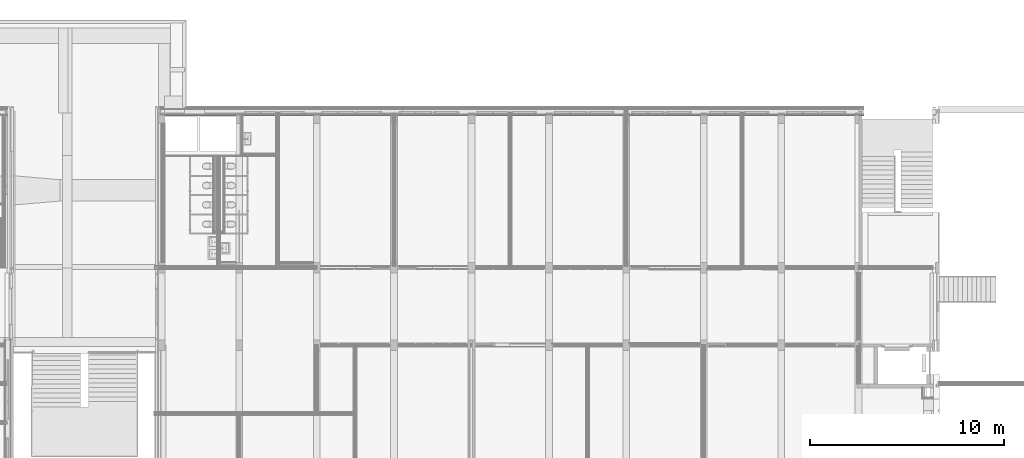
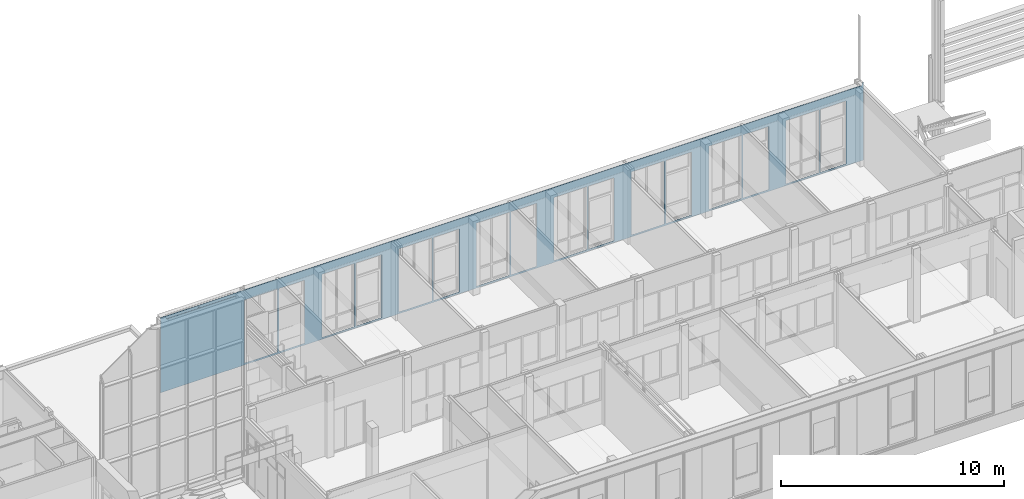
# One storey, part 57 of 94: 1 building element part, 16 openings, 1 element without a shape of its own.
"""IFC2X3 building model written with IfcOpenShell, lengths in millimetres."""

import ifcopenshell
import ifcopenshell.guid

model = None  # the IFC model being written
_history = None  # IfcOwnerHistory: only IFC2X3 demands one
_inside = {}  # id of a spatial element -> (the spatial element, [elements in it])
_under = {}  # id of a project, library or spatial element -> (it, [spatial elements below it])
_declared = {}  # id of a project -> (the project, [libraries it declares])
_typed = {}  # id of a type object -> (the type object, [elements of that type])
_made_of = {}  # id of a material, layer set ... -> (it, [elements and type objects made of it])


def new_model(schema):
    """Start an empty IFC model of exactly this schema.

    Asked for "IFC4X3", IfcOpenShell would pick the latest addendum, in which some entities
    have other attributes; the version numbers below select the first issue.
    IFC2X3 requires an IfcOwnerHistory on every rooted entity: one is made here for all.
    """
    global model, _history
    if schema == "IFC4X3":
        model = ifcopenshell.file(schema_version=(4, 3, 0, 0))
    else:
        model = ifcopenshell.file(schema=schema)
    _inside.clear()
    _under.clear()
    _declared.clear()
    _typed.clear()
    _made_of.clear()
    _history = None
    if model.schema == "IFC2X3":
        org = make("IfcOrganization", Name="unknown")
        user = make(
            "IfcPersonAndOrganization",
            ThePerson=make("IfcPerson", FamilyName="unknown"),
            TheOrganization=org,
        )
        app = make(
            "IfcApplication",
            ApplicationDeveloper=org,
            Version="unknown",
            ApplicationFullName="unknown",
            ApplicationIdentifier="unknown",
        )
        _history = make(
            "IfcOwnerHistory",
            OwningUser=user,
            OwningApplication=app,
            ChangeAction="ADDED",
            CreationDate=0,
        )
    return model


def make(cls, **values):
    """One entity of the class cls with the attributes given. An attribute that is None is left unset."""
    return model.create_entity(
        cls, **{name: value for name, value in values.items() if value is not None}
    )


def entity(cls, *values):
    """Any entity or typed value of the class cls, its attributes in the order of the schema. None: left unset."""
    e = model.create_entity(cls)
    for i, value in enumerate(values):
        if value is not None:
            e[i] = value
    return e


def rooted(cls, **values):
    """An entity with a GlobalId (a new one), such as an element, a storey or a relation."""
    return make(cls, GlobalId=ifcopenshell.guid.new(), OwnerHistory=_history, **values)


def si_unit(unit_type, name, prefix=None):
    """IfcSIUnit, for example si_unit("LENGTHUNIT", "METRE", prefix="MILLI")."""
    return make("IfcSIUnit", UnitType=unit_type, Prefix=prefix, Name=name)


def converted_unit(unit_type, name, factor, base, dimensions=None, offset=None):
    """IfcConversionBasedUnit, such as the inch: factor (a typed value) times the base unit."""
    return make(
        "IfcConversionBasedUnit"
        if offset is None
        else "IfcConversionBasedUnitWithOffset",
        ConversionOffset=offset,
        Dimensions=None
        if dimensions is None
        else entity("IfcDimensionalExponents", *dimensions),
        UnitType=unit_type,
        Name=name,
        ConversionFactor=make(
            "IfcMeasureWithUnit", ValueComponent=factor, UnitComponent=base
        ),
    )


def derived_unit(unit_type, elements):
    """IfcDerivedUnit: a product of units, each with its exponent."""
    return make(
        "IfcDerivedUnit",
        Elements=[
            make("IfcDerivedUnitElement", Unit=unit, Exponent=power)
            for unit, power in elements
        ],
        UnitType=unit_type,
    )


def money_unit(currency):
    """IfcMonetaryUnit."""
    return make("IfcMonetaryUnit", Currency=currency)


def assignment(units):
    """IfcUnitAssignment: the units of a project."""
    return None if units is None else make("IfcUnitAssignment", Units=units)


def point(xyz):
    """IfcCartesianPoint."""
    return None if xyz is None else make("IfcCartesianPoint", Coordinates=xyz)


def direction(xyz):
    """IfcDirection."""
    return None if xyz is None else make("IfcDirection", DirectionRatios=xyz)


def frame(location, z_axis=None, x_axis=None):
    """IfcAxis2Placement3D, a coordinate frame: its origin and axes. An axis left out is left unset."""
    return make(
        "IfcAxis2Placement3D",
        Location=point(location),
        Axis=direction(z_axis),
        RefDirection=direction(x_axis),
    )


def origin_with_axes():
    """The frame at (0, 0, 0) with the z axis (0, 0, 1) and the x axis (1, 0, 0) written out."""
    return frame((0.0, 0.0, 0.0), z_axis=(0.0, 0.0, 1.0), x_axis=(1.0, 0.0, 0.0))


def place(relative_to, where):
    """IfcLocalPlacement: puts the frame where relative to a parent placement (None: the world)."""
    return make(
        "IfcLocalPlacement", PlacementRelTo=relative_to, RelativePlacement=where
    )


def context(
    kind, dimensions, precision=None, world=None, true_north=None, identifier=None
):
    """IfcGeometricRepresentationContext, for example the 3D "Model" context."""
    return make(
        "IfcGeometricRepresentationContext",
        ContextIdentifier=identifier,
        ContextType=kind,
        CoordinateSpaceDimension=dimensions,
        Precision=precision,
        WorldCoordinateSystem=world,
        TrueNorth=true_north,
    )


def subcontext(parent, identifier, kind, view, scale=None):
    """IfcGeometricRepresentationSubContext, for example "Body" below "Model"."""
    return make(
        "IfcGeometricRepresentationSubContext",
        ContextIdentifier=identifier,
        ContextType=kind,
        ParentContext=parent,
        TargetScale=scale,
        TargetView=view,
    )


def project(units=None, contexts=None):
    """IfcProject with its units and contexts."""
    return rooted(
        "IfcProject",
        Name="project",
        RepresentationContexts=contexts,
        UnitsInContext=assignment(units),
    )


def spatial(cls, under=None, at=None, **own):
    """A site, building, storey or space (cls), placed at a placement, below another one or the project."""
    s = rooted(cls, ObjectPlacement=at, **own)
    if under is not None:
        _under.setdefault(under.id(), (under, []))[1].append(s)
    return s


def faces_of(points, faces, orient=None, outer=None):
    """IfcFace entities. A face is a list of loops; a loop is a list of indices into points, from 0.

    orient and outer hold one flag for each loop. By default every Orientation is true, the
    first loop of a face is its IfcFaceOuterBound and the others are IfcFaceBound.
    """
    made = []
    for i, loops in enumerate(faces):
        bounds = []
        for j, loop in enumerate(loops):
            is_outer = j == 0 if outer is None else outer[i][j]
            bounds.append(
                make(
                    "IfcFaceOuterBound" if is_outer else "IfcFaceBound",
                    Bound=make("IfcPolyLoop", Polygon=[points[k] for k in loop]),
                    Orientation=True if orient is None else orient[i][j],
                )
            )
        made.append(make("IfcFace", Bounds=bounds))
    return made


def faceted_brep(points, faces, orient=None, outer=None, voids=None):
    """IfcFacetedBrep: a solid bounded by flat faces; with voids (closed shells), ...WithVoids."""
    shared = [point(p) for p in points]
    hull = make("IfcClosedShell", CfsFaces=faces_of(shared, faces, orient, outer))
    if voids is None:
        return make("IfcFacetedBrep", Outer=hull)
    return make(
        "IfcFacetedBrepWithVoids",
        Outer=hull,
        Voids=[
            make(cls, CfsFaces=faces_of(shared, fs, o, b)) for cls, fs, o, b in voids
        ],
    )


def shape(context_of_items, identifier, shape_type, items):
    """IfcShapeRepresentation: the items that make up one representation, for example the "Body"."""
    return make(
        "IfcShapeRepresentation",
        ContextOfItems=context_of_items,
        RepresentationIdentifier=identifier,
        RepresentationType=shape_type,
        Items=items,
    )


def material(Name=None, Category=None):
    """IfcMaterial."""
    return make("IfcMaterial", Name=Name, Category=Category)


def made_of(thing, what):
    """Note that an element or type object is made of a material, layer set ...; save() writes the relation."""
    if what is not None:
        _made_of.setdefault(what.id(), (what, []))[1].append(thing)
    return thing


def type_object(cls, material=None, **own):
    """A type object (cls), such as IfcWallType, which elements share."""
    return made_of(rooted(cls, **own), material)


def element(
    cls,
    number,
    at=None,
    inside=None,
    cuts=None,
    type_object=None,
    material=None,
    context=None,
    identifier="Body",
    shape_type=None,
    held_by="IfcProductDefinitionShape",
    body=None,
    shapes=None,
    **own,
):
    """One element of the class cls, such as IfcWall. Its Tag is "e" and its number.

    at: its placement. inside: the storey or other place that contains it. cuts: it is an
    opening in that element (IfcRelVoidsElement). A single representation is given by context,
    identifier, shape_type and body (its items); several are given by shapes. held_by: the class
    of the entity that holds the representations. save() writes the other relations.
    """
    e = rooted(cls, Tag="e%d" % number, ObjectPlacement=at, **own)
    if body is not None:
        shapes = [shape(context, identifier, shape_type, body)]
    if shapes is not None:
        e.Representation = make(held_by, Representations=shapes)
    if inside is not None:
        _inside.setdefault(inside.id(), (inside, []))[1].append(e)
    if cuts is not None:
        rooted(
            "IfcRelVoidsElement", RelatingBuildingElement=cuts, RelatedOpeningElement=e
        )
    if type_object is not None:
        _typed.setdefault(type_object.id(), (type_object, []))[1].append(e)
    return made_of(e, material)


def aggregate(whole, parts):
    """IfcRelAggregates: a whole, such as a stair, and the parts it consists of."""
    return rooted("IfcRelAggregates", RelatingObject=whole, RelatedObjects=parts)


def save(model, path):
    """Write the relations noted so far, then the file.

    IfcRelAggregates (storeys below a building ...), IfcRelContainedInSpatialStructure (elements
    in a storey), IfcRelDefinesByType, IfcRelAssociatesMaterial and IfcRelDeclares: one each for
    every whole, place, type object, material and project.
    """
    for whole, parts in _under.values():
        aggregate(whole, parts)
    for where, things in _inside.values():
        rooted(
            "IfcRelContainedInSpatialStructure",
            RelatedElements=things,
            RelatingStructure=where,
        )
    for kind, things in _typed.values():
        rooted("IfcRelDefinesByType", RelatedObjects=things, RelatingType=kind)
    for what, things in _made_of.values():
        rooted("IfcRelAssociatesMaterial", RelatedObjects=things, RelatingMaterial=what)
    for by, libraries in _declared.values():
        rooted("IfcRelDeclares", RelatingContext=by, RelatedDefinitions=libraries)
    model.write(path)


model = new_model("IFC2X3")

# Units and contexts
model_context = context("Model", 3, precision=0.01, world=origin_with_axes(), true_north=direction((0.0, 1.0)))
body_context = subcontext(model_context, "Body", "Model", "MODEL_VIEW")
ifc_project = project(units=[si_unit("LENGTHUNIT", "METRE", prefix="MILLI"), si_unit("AREAUNIT", "SQUARE_METRE"), si_unit("VOLUMEUNIT", "CUBIC_METRE"), converted_unit("PLANEANGLEUNIT", "DEGREE", entity("IfcPlaneAngleMeasure", 0.0174532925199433), si_unit("PLANEANGLEUNIT", "RADIAN"), dimensions=[0, 0, 0, 0, 0, 0, 0]), money_unit("EUR"), converted_unit("TIMEUNIT", "Year", entity("IfcTimeMeasure", 31557600.0), si_unit("TIMEUNIT", "SECOND"), dimensions=[0, 0, 1, 0, 0, 0, 0]), si_unit("MASSUNIT", "GRAM", prefix="KILO"), si_unit("THERMODYNAMICTEMPERATUREUNIT", "DEGREE_CELSIUS"), si_unit("LUMINOUSINTENSITYUNIT", "LUMEN"), si_unit("ENERGYUNIT", "JOULE", prefix="MEGA"), derived_unit("THERMALCONDUCTANCEUNIT", [(si_unit("POWERUNIT", "WATT"), 1), (si_unit("LENGTHUNIT", "METRE"), -1), (si_unit("THERMODYNAMICTEMPERATUREUNIT", "KELVIN"), -1)]), derived_unit("SPECIFICHEATCAPACITYUNIT", [(si_unit("ENERGYUNIT", "JOULE"), 1), (si_unit("MASSUNIT", "GRAM", prefix="KILO"), -1), (si_unit("THERMODYNAMICTEMPERATUREUNIT", "KELVIN"), -1)]), derived_unit("MASSDENSITYUNIT", [(si_unit("MASSUNIT", "GRAM", prefix="KILO"), 1), (si_unit("VOLUMEUNIT", "CUBIC_METRE"), -1)])], contexts=[model_context])

# Site, building, storey
site_placement = place(None, origin_with_axes())
site = spatial("IfcSite", under=ifc_project, at=site_placement, Name="<site naam>", CompositionType="ELEMENT")
building_placement = place(site_placement, origin_with_axes())
building = spatial("IfcBuilding", under=site, at=building_placement, Name="<Naam gebouw>", CompositionType="ELEMENT")
storey_placement = place(building_placement, frame((0.0, 0.0, 4250.0), z_axis=(0.0, 0.0, 1.0), x_axis=(1.0, 0.0, 0.0)))
storey = spatial("IfcBuildingStorey", under=building, at=storey_placement, Name="01 1e verdieping", CompositionType="ELEMENT", Elevation=4250.0)

# Wall, openings, building element part
wall_type = type_object("IfcWallType", Name="HSB_285 gevelbeplating 420", PredefinedType="NOTDEFINED")
wall_placement = place(storey_placement, frame((48251.99999966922, 20298.00000000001, 0.0), z_axis=(0.0, 0.0, 1.0), x_axis=(-1.0, 0.0, 0.0)))
wall = element("IfcWall", 1, at=wall_placement, inside=storey, type_object=wall_type, Name="21_Binnenwand_HSB_285")
opening_1_placement = place(wall_placement, frame((3140.999999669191, 0.0, 99.99999999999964), z_axis=(0.0, 0.0, 1.0), x_axis=(1.0, 0.0, 0.0)))
element("IfcOpeningElement", 2, at=opening_1_placement, cuts=wall, Name="21_BU-A-12a sp_305", context=body_context, shape_type="Brep", body=[
    faceted_brep([(850.9999999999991, 213.000000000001, 3450.0), (-850.9999999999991, 213.000000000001, 3450.0), (-850.9999999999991, -1.000000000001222, 3450.0), (850.9999999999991, -1.000000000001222, 3450.0), (850.9999999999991, 421.000000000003, 3450.0), (-850.9999999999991, 421.000000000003, 3450.0), (-850.9999999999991, 213.000000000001, 0.0), (-850.9999999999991, -1.000000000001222, 0.0), (850.9999999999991, -1.000000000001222, 0.0), (850.9999999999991, 213.000000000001, 0.0), (850.9999999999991, 421.000000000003, 0.0), (-850.9999999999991, 421.000000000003, 0.0)], [[[0, 1, 2, 3]], [[1, 0, 4, 5]], [[1, 6, 7, 2]], [[2, 7, 8, 3]], [[9, 0, 3, 8]], [[0, 9, 10, 4]], [[4, 10, 11, 5]], [[6, 1, 5, 11]], [[6, 9, 8, 7]], [[9, 6, 11, 10]]]),
])
opening_2_placement = place(wall_placement, frame((1551.00001094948, 0.0, 99.99999999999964), z_axis=(0.0, 0.0, 1.0), x_axis=(1.0, 0.0, 0.0)))
element("IfcOpeningElement", 3, at=opening_2_placement, cuts=wall, Name="21_BU-A-12b sp_305", context=body_context, shape_type="Brep", body=[
    faceted_brep([(662.9999999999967, 213.000000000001, 3450.0), (-662.9999999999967, 213.000000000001, 3450.0), (-662.9999999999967, -1.000000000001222, 3450.0), (662.9999999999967, -1.000000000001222, 3450.0), (662.9999999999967, 421.000000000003, 3450.0), (-662.9999999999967, 421.000000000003, 3450.0), (-662.9999999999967, 213.000000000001, 0.0), (-662.9999999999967, -1.000000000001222, 0.0), (662.9999999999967, -1.000000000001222, 0.0), (662.9999999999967, 213.000000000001, 0.0), (662.9999999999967, 421.000000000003, 0.0), (-662.9999999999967, 421.000000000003, 0.0)], [[[0, 1, 2, 3]], [[1, 0, 4, 5]], [[1, 6, 7, 2]], [[2, 7, 8, 3]], [[9, 0, 3, 8]], [[0, 9, 10, 4]], [[4, 10, 11, 5]], [[6, 1, 5, 11]], [[6, 9, 8, 7]], [[9, 6, 11, 10]]]),
])
opening_3_placement = place(wall_placement, frame((7140.999999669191, 0.0, 99.99999999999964), z_axis=(0.0, 0.0, 1.0), x_axis=(1.0, 0.0, 0.0)))
element("IfcOpeningElement", 4, at=opening_3_placement, cuts=wall, Name="21_BU-A-12a sp_305", context=body_context, shape_type="Brep", body=[
    faceted_brep([(850.9999999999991, 213.000000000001, 3450.0), (-850.9999999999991, 213.000000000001, 3450.0), (-850.9999999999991, -1.000000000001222, 3450.0), (850.9999999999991, -1.000000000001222, 3450.0), (850.9999999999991, 421.000000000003, 3450.0), (-850.9999999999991, 421.000000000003, 3450.0), (-850.9999999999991, 213.000000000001, 0.0), (-850.9999999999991, -1.000000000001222, 0.0), (850.9999999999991, -1.000000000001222, 0.0), (850.9999999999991, 213.000000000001, 0.0), (850.9999999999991, 421.000000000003, 0.0), (-850.9999999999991, 421.000000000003, 0.0)], [[[0, 1, 2, 3]], [[1, 0, 4, 5]], [[1, 6, 7, 2]], [[2, 7, 8, 3]], [[9, 0, 3, 8]], [[0, 9, 10, 4]], [[4, 10, 11, 5]], [[6, 1, 5, 11]], [[6, 9, 8, 7]], [[9, 6, 11, 10]]]),
])
opening_4_placement = place(wall_placement, frame((9550.999999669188, 0.0, 99.99999999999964), z_axis=(0.0, 0.0, 1.0), x_axis=(1.0, 0.0, 0.0)))
element("IfcOpeningElement", 5, at=opening_4_placement, cuts=wall, Name="21_BU-A-12b sp_305", context=body_context, shape_type="Brep", body=[
    faceted_brep([(662.9999999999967, 213.000000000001, 3450.0), (-662.9999999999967, 213.000000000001, 3450.0), (-662.9999999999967, -1.000000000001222, 3450.0), (662.9999999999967, -1.000000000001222, 3450.0), (662.9999999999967, 421.000000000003, 3450.0), (-662.9999999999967, 421.000000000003, 3450.0), (-662.9999999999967, 213.000000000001, 0.0), (-662.9999999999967, -1.000000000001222, 0.0), (662.9999999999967, -1.000000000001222, 0.0), (662.9999999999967, 213.000000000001, 0.0), (662.9999999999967, 421.000000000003, 0.0), (-662.9999999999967, 421.000000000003, 0.0)], [[[0, 1, 2, 3]], [[1, 0, 4, 5]], [[1, 6, 7, 2]], [[2, 7, 8, 3]], [[9, 0, 3, 8]], [[0, 9, 10, 4]], [[4, 10, 11, 5]], [[6, 1, 5, 11]], [[6, 9, 8, 7]], [[9, 6, 11, 10]]]),
])
opening_5_placement = place(wall_placement, frame((11140.99999966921, 0.0, 99.99999999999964), z_axis=(0.0, 0.0, 1.0), x_axis=(1.0, 0.0, 0.0)))
element("IfcOpeningElement", 6, at=opening_5_placement, cuts=wall, Name="21_BU-A-12a sp_305", context=body_context, shape_type="Brep", body=[
    faceted_brep([(850.9999999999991, 213.000000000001, 3450.0), (-850.9999999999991, 213.000000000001, 3450.0), (-850.9999999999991, -1.000000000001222, 3450.0), (850.9999999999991, -1.000000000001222, 3450.0), (850.9999999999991, 421.000000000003, 3450.0), (-850.9999999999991, 421.000000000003, 3450.0), (-850.9999999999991, 213.000000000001, 0.0), (-850.9999999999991, -1.000000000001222, 0.0), (850.9999999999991, -1.000000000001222, 0.0), (850.9999999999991, 213.000000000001, 0.0), (850.9999999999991, 421.000000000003, 0.0), (-850.9999999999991, 421.000000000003, 0.0)], [[[0, 1, 2, 3]], [[1, 0, 4, 5]], [[1, 6, 7, 2]], [[2, 7, 8, 3]], [[9, 0, 3, 8]], [[0, 9, 10, 4]], [[4, 10, 11, 5]], [[6, 1, 5, 11]], [[6, 9, 8, 7]], [[9, 6, 11, 10]]]),
])
opening_6_placement = place(wall_placement, frame((15140.99998838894, 0.0, 99.99999999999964), z_axis=(0.0, 0.0, 1.0), x_axis=(1.0, 0.0, 0.0)))
element("IfcOpeningElement", 7, at=opening_6_placement, cuts=wall, Name="21_BU-A-12a sp_305", context=body_context, shape_type="Brep", body=[
    faceted_brep([(850.9999999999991, 212.9999999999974, 3450.0), (-850.9999999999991, 212.9999999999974, 3450.0), (-850.9999999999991, -1.000000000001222, 3450.0), (850.9999999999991, -1.000000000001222, 3450.0), (850.9999999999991, 421.000000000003, 3450.0), (-850.9999999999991, 421.000000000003, 3450.0), (-850.9999999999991, 212.9999999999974, 0.0), (-850.9999999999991, -1.000000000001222, 0.0), (850.9999999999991, -1.000000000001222, 0.0), (850.9999999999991, 212.9999999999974, 0.0), (850.9999999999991, 421.000000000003, 0.0), (-850.9999999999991, 421.000000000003, 0.0)], [[[0, 1, 2, 3]], [[1, 0, 4, 5]], [[1, 6, 7, 2]], [[2, 7, 8, 3]], [[9, 0, 3, 8]], [[0, 9, 10, 4]], [[4, 10, 11, 5]], [[6, 1, 5, 11]], [[6, 9, 8, 7]], [[9, 6, 11, 10]]]),
])
opening_7_placement = place(wall_placement, frame((13550.99999966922, 0.0, 99.99999999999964), z_axis=(0.0, 0.0, 1.0), x_axis=(1.0, 0.0, 0.0)))
element("IfcOpeningElement", 8, at=opening_7_placement, cuts=wall, Name="21_BU-A-12b sp_305", context=body_context, shape_type="Brep", body=[
    faceted_brep([(662.9999999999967, 213.000000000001, 3450.0), (-662.9999999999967, 213.000000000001, 3450.0), (-662.9999999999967, -1.000000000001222, 3450.0), (662.9999999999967, -1.000000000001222, 3450.0), (662.9999999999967, 421.000000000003, 3450.0), (-662.9999999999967, 421.000000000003, 3450.0), (-662.9999999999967, 213.000000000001, 0.0), (-662.9999999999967, -1.000000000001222, 0.0), (662.9999999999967, -1.000000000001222, 0.0), (662.9999999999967, 213.000000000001, 0.0), (662.9999999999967, 421.000000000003, 0.0), (-662.9999999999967, 421.000000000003, 0.0)], [[[0, 1, 2, 3]], [[1, 0, 4, 5]], [[1, 6, 7, 2]], [[2, 7, 8, 3]], [[9, 0, 3, 8]], [[0, 9, 10, 4]], [[4, 10, 11, 5]], [[6, 1, 5, 11]], [[6, 9, 8, 7]], [[9, 6, 11, 10]]]),
])
opening_8_placement = place(wall_placement, frame((19140.98053610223, 0.0, 99.99999999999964), z_axis=(0.0, 0.0, 1.0), x_axis=(1.0, 0.0, 0.0)))
element("IfcOpeningElement", 9, at=opening_8_placement, cuts=wall, Name="21_BU-A-12a sp_305", context=body_context, shape_type="Brep", body=[
    faceted_brep([(850.9999999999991, 212.9999999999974, 3450.0), (-850.9999999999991, 212.9999999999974, 3450.0), (-850.9999999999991, -1.000000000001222, 3450.0), (850.9999999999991, -1.000000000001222, 3450.0), (850.9999999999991, 421.000000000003, 3450.0), (-850.9999999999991, 421.000000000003, 3450.0), (-850.9999999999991, 212.9999999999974, 0.0), (-850.9999999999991, -1.000000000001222, 0.0), (850.9999999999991, -1.000000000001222, 0.0), (850.9999999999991, 212.9999999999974, 0.0), (850.9999999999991, 421.000000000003, 0.0), (-850.9999999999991, 421.000000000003, 0.0)], [[[0, 1, 2, 3]], [[1, 0, 4, 5]], [[1, 6, 7, 2]], [[2, 7, 8, 3]], [[9, 0, 3, 8]], [[0, 9, 10, 4]], [[4, 10, 11, 5]], [[6, 1, 5, 11]], [[6, 9, 8, 7]], [[9, 6, 11, 10]]]),
])
opening_9_placement = place(wall_placement, frame((17550.99999966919, 0.0, 99.99999999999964), z_axis=(0.0, 0.0, 1.0), x_axis=(1.0, 0.0, 0.0)))
element("IfcOpeningElement", 10, at=opening_9_placement, cuts=wall, Name="21_BU-A-12b sp_305", context=body_context, shape_type="Brep", body=[
    faceted_brep([(663.0000000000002, 212.9999999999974, 3450.0), (-663.0000000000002, 212.9999999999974, 3450.0), (-663.0000000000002, -1.000000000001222, 3450.0), (663.0000000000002, -1.000000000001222, 3450.0), (663.0000000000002, 421.000000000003, 3450.0), (-663.0000000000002, 421.000000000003, 3450.0), (-663.0000000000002, 212.9999999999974, 0.0), (-663.0000000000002, -1.000000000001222, 0.0), (663.0000000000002, -1.000000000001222, 0.0), (663.0000000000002, 212.9999999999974, 0.0), (663.0000000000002, 421.000000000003, 0.0), (-663.0000000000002, 421.000000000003, 0.0)], [[[0, 1, 2, 3]], [[1, 0, 4, 5]], [[1, 6, 7, 2]], [[2, 7, 8, 3]], [[9, 0, 3, 8]], [[0, 9, 10, 4]], [[4, 10, 11, 5]], [[6, 1, 5, 11]], [[6, 9, 8, 7]], [[9, 6, 11, 10]]]),
])
opening_10_placement = place(wall_placement, frame((5550.999999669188, 0.0, 99.99999999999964), z_axis=(0.0, 0.0, 1.0), x_axis=(1.0, 0.0, 0.0)))
element("IfcOpeningElement", 11, at=opening_10_placement, cuts=wall, Name="21_BU-A-12b sp_305", context=body_context, shape_type="Brep", body=[
    faceted_brep([(662.9999999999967, 213.000000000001, 3450.0), (-662.9999999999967, 213.000000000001, 3450.0), (-662.9999999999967, -1.000000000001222, 3450.0), (662.9999999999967, -1.000000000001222, 3450.0), (662.9999999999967, 421.000000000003, 3450.0), (-662.9999999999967, 421.000000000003, 3450.0), (-662.9999999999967, 213.000000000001, 0.0), (-662.9999999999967, -1.000000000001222, 0.0), (662.9999999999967, -1.000000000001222, 0.0), (662.9999999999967, 213.000000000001, 0.0), (662.9999999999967, 421.000000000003, 0.0), (-662.9999999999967, 421.000000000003, 0.0)], [[[0, 1, 2, 3]], [[1, 0, 4, 5]], [[1, 6, 7, 2]], [[2, 7, 8, 3]], [[9, 0, 3, 8]], [[0, 9, 10, 4]], [[4, 10, 11, 5]], [[6, 1, 5, 11]], [[6, 9, 8, 7]], [[9, 6, 11, 10]]]),
])
opening_11_placement = place(wall_placement, frame((23141.0125073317, 0.0, 99.99999999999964), z_axis=(0.0, 0.0, 1.0), x_axis=(1.0, 0.0, 0.0)))
element("IfcOpeningElement", 12, at=opening_11_placement, cuts=wall, Name="21_BU-A-12a sp_305", context=body_context, shape_type="Brep", body=[
    faceted_brep([(850.9999999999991, 212.9999999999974, 3450.0), (-850.9999999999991, 212.9999999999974, 3450.0), (-850.9999999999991, -1.000000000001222, 3450.0), (850.9999999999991, -1.000000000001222, 3450.0), (850.9999999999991, 421.000000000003, 3450.0), (-850.9999999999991, 421.000000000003, 3450.0), (-850.9999999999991, 212.9999999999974, 0.0), (-850.9999999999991, -1.000000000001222, 0.0), (850.9999999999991, -1.000000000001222, 0.0), (850.9999999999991, 212.9999999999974, 0.0), (850.9999999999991, 421.000000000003, 0.0), (-850.9999999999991, 421.000000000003, 0.0)], [[[0, 1, 2, 3]], [[1, 0, 4, 5]], [[1, 6, 7, 2]], [[2, 7, 8, 3]], [[9, 0, 3, 8]], [[0, 9, 10, 4]], [[4, 10, 11, 5]], [[6, 1, 5, 11]], [[6, 9, 8, 7]], [[9, 6, 11, 10]]]),
])
opening_12_placement = place(wall_placement, frame((21550.98053610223, 0.0, 99.99999999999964), z_axis=(0.0, 0.0, 1.0), x_axis=(1.0, 0.0, 0.0)))
element("IfcOpeningElement", 13, at=opening_12_placement, cuts=wall, Name="21_BU-A-12b sp_305", context=body_context, shape_type="Brep", body=[
    faceted_brep([(663.0000000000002, 212.9999999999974, 3450.0), (-663.0000000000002, 212.9999999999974, 3450.0), (-663.0000000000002, -1.000000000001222, 3450.0), (663.0000000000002, -1.000000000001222, 3450.0), (663.0000000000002, 421.000000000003, 3450.0), (-663.0000000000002, 421.000000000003, 3450.0), (-663.0000000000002, 212.9999999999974, 0.0), (-663.0000000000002, -1.000000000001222, 0.0), (663.0000000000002, -1.000000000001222, 0.0), (663.0000000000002, 212.9999999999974, 0.0), (663.0000000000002, 421.000000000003, 0.0), (-663.0000000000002, 421.000000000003, 0.0)], [[[0, 1, 2, 3]], [[1, 0, 4, 5]], [[1, 6, 7, 2]], [[2, 7, 8, 3]], [[9, 0, 3, 8]], [[0, 9, 10, 4]], [[4, 10, 11, 5]], [[6, 1, 5, 11]], [[6, 9, 8, 7]], [[9, 6, 11, 10]]]),
])
opening_13_placement = place(wall_placement, frame((25550.99999966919, 0.0, 99.99999999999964), z_axis=(0.0, 0.0, 1.0), x_axis=(1.0, 0.0, 0.0)))
element("IfcOpeningElement", 14, at=opening_13_placement, cuts=wall, Name="21_BU-A-12b sp_305", context=body_context, shape_type="Brep", body=[
    faceted_brep([(663.0000000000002, 212.9999999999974, 3450.0), (-663.0000000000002, 212.9999999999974, 3450.0), (-663.0000000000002, -1.000000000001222, 3450.0), (663.0000000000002, -1.000000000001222, 3450.0), (663.0000000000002, 421.000000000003, 3450.0), (-663.0000000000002, 421.000000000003, 3450.0), (-663.0000000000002, 212.9999999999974, 0.0), (-663.0000000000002, -1.000000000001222, 0.0), (663.0000000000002, -1.000000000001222, 0.0), (663.0000000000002, 212.9999999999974, 0.0), (663.0000000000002, 421.000000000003, 0.0), (-663.0000000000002, 421.000000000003, 0.0)], [[[0, 1, 2, 3]], [[1, 0, 4, 5]], [[1, 6, 7, 2]], [[2, 7, 8, 3]], [[9, 0, 3, 8]], [[0, 9, 10, 4]], [[4, 10, 11, 5]], [[6, 1, 5, 11]], [[6, 9, 8, 7]], [[9, 6, 11, 10]]]),
])
opening_14_placement = place(wall_placement, frame((27140.99999966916, 0.0, 99.99999999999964), z_axis=(0.0, 0.0, 1.0), x_axis=(1.0, 0.0, 0.0)))
element("IfcOpeningElement", 15, at=opening_14_placement, cuts=wall, Name="21_BU-A-12a sp_305", context=body_context, shape_type="Brep", body=[
    faceted_brep([(850.9999999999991, 212.9999999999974, 3450.0), (-850.9999999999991, 212.9999999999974, 3450.0), (-850.9999999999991, -1.000000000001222, 3450.0), (850.9999999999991, -1.000000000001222, 3450.0), (850.9999999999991, 421.000000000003, 3450.0), (-850.9999999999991, 421.000000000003, 3450.0), (-850.9999999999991, 212.9999999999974, 0.0), (-850.9999999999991, -1.000000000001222, 0.0), (850.9999999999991, -1.000000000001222, 0.0), (850.9999999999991, 212.9999999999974, 0.0), (850.9999999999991, 421.000000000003, 0.0), (-850.9999999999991, 421.000000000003, 0.0)], [[[0, 1, 2, 3]], [[1, 0, 4, 5]], [[1, 6, 7, 2]], [[2, 7, 8, 3]], [[9, 0, 3, 8]], [[0, 9, 10, 4]], [[4, 10, 11, 5]], [[6, 1, 5, 11]], [[6, 9, 8, 7]], [[9, 6, 11, 10]]]),
])
opening_15_placement = place(wall_placement, frame((29551.00001094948, 0.0, 99.99999999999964), z_axis=(0.0, 0.0, 1.0), x_axis=(1.0, 0.0, 0.0)))
element("IfcOpeningElement", 16, at=opening_15_placement, cuts=wall, Name="21_BU-A-12b sp_305", context=body_context, shape_type="Brep", body=[
    faceted_brep([(663.0000000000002, 212.9999999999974, 3450.0), (-663.0000000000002, 212.9999999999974, 3450.0), (-663.0000000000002, -1.000000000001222, 3450.0), (663.0000000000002, -1.000000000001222, 3450.0), (663.0000000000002, 421.000000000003, 3450.0), (-663.0000000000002, 421.000000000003, 3450.0), (-663.0000000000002, 212.9999999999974, 0.0), (-663.0000000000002, -1.000000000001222, 0.0), (663.0000000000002, -1.000000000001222, 0.0), (663.0000000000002, 212.9999999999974, 0.0), (663.0000000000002, 421.000000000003, 0.0), (-663.0000000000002, 421.000000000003, 0.0)], [[[0, 1, 2, 3]], [[1, 0, 4, 5]], [[1, 6, 7, 2]], [[2, 7, 8, 3]], [[9, 0, 3, 8]], [[0, 9, 10, 4]], [[4, 10, 11, 5]], [[6, 1, 5, 11]], [[6, 9, 8, 7]], [[9, 6, 11, 10]]]),
])
opening_16_placement = place(wall_placement, frame((31140.99998838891, 0.0, 99.99999999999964), z_axis=(0.0, 0.0, 1.0), x_axis=(1.0, 0.0, 0.0)))
element("IfcOpeningElement", 17, at=opening_16_placement, cuts=wall, Name="21_BU-A-12a sp_305", context=body_context, shape_type="Brep", body=[
    faceted_brep([(850.9999999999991, 212.9999999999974, 3450.0), (-850.9999999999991, 212.9999999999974, 3450.0), (-850.9999999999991, -1.000000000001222, 3450.0), (850.9999999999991, -1.000000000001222, 3450.0), (850.9999999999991, 421.000000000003, 3450.0), (-850.9999999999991, 421.000000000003, 3450.0), (-850.9999999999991, 212.9999999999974, 0.0), (-850.9999999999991, -1.000000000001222, 0.0), (850.9999999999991, -1.000000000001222, 0.0), (850.9999999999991, 212.9999999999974, 0.0), (850.9999999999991, 421.000000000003, 0.0), (-850.9999999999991, 421.000000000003, 0.0)], [[[0, 1, 2, 3]], [[1, 0, 4, 5]], [[1, 6, 7, 2]], [[2, 7, 8, 3]], [[9, 0, 3, 8]], [[0, 9, 10, 4]], [[4, 10, 11, 5]], [[6, 1, 5, 11]], [[6, 9, 8, 7]], [[9, 6, 11, 10]]]),
])
ifc_material = material(Name="hout_OSB")
building_element_part_placement = place(wall_placement, origin_with_axes())
building_element_part = element("IfcBuildingElementPart", 18, at=building_element_part_placement, material=ifc_material, Name="hout_OSB", context=body_context, shape_type="Brep", body=[
    faceted_brep([(32426.99999966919, 392.4999999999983, 4100.0), (76.92214540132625, 392.4999999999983, 4100.0), (76.92214540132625, 392.5000000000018, 4250.0), (0.0, 392.5000000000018, 4250.0), (0.0, 392.4999999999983, 0.0), (12426.99985761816, 392.4999999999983, 0.0), (12426.99985761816, 392.4999999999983, 3.000000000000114), (16076.99985984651, 392.4999999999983, 3.000000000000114), (16076.99985984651, 392.4999999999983, 0.0), (16426.99993484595, 392.4999999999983, 0.0), (16426.99993484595, 392.4999999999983, 3.000000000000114), (18176.86513133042, 392.4999999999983, 3.000000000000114), (18176.86513133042, 392.4999999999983, 0.0), (18326.86255402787, 392.4999999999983, 0.0), (18326.86255402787, 392.4999999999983, 3.000000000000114), (20076.98057049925, 392.4999999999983, 3.000000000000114), (20076.98057049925, 392.4999999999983, 0.0), (20427.00000146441, 392.4999999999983, 0.0), (20427.00000146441, 392.4999999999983, 3.000000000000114), (24076.99999971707, 392.4999999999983, 3.000000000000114), (24076.99999971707, 392.4999999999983, 0.0), (30327.06166482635, 392.4999999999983, 0.0), (30327.06166482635, 392.4999999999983, 3.000000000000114), (32077.00006360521, 392.4999999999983, 3.000000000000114), (32077.00006360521, 392.4999999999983, 0.0), (36316.99999966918, 392.4999999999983, 0.0), (36316.99999966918, 392.4999999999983, 4100.0), (36076.99999966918, 392.4999999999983, 4100.0), (36076.99999966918, 392.4999999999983, 4090.499903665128), (32426.99999966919, 392.4999999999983, 4090.499903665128), (24427.00006108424, 392.4999999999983, 22.99999999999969), (28077.00005377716, 392.4999999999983, 22.99999999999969), (28077.00005377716, 392.4999999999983, 19.99999999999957), (24427.00006108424, 392.4999999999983, 19.99999999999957), (28426.99998301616, 392.4999999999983, 22.99999999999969), (30177.06159675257, 392.4999999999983, 22.99999999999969), (30177.06159675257, 392.4999999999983, 19.99999999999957), (28426.99998301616, 392.4999999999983, 19.99999999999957), (6326.99981685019, 392.4999999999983, 22.99999999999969), (8077.00010120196, 392.4999999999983, 22.99999999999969), (8077.00010120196, 392.4999999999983, 19.99999999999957), (6326.99981685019, 392.5000000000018, 19.99999999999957), (8427.000063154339, 392.4999999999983, 22.99999999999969), (12076.9999884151, 392.4999999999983, 22.99999999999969), (12076.9999884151, 392.4999999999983, 19.99999999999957), (8427.000063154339, 392.5000000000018, 19.99999999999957), (427.0000192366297, 392.4999999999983, 22.99999999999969), (4076.999959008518, 392.5000000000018, 22.99999999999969), (4076.999959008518, 392.4999999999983, 19.99999999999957), (427.0000192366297, 392.5000000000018, 19.99999999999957), (4426.999980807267, 392.4999999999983, 22.99999999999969), (6176.999971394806, 392.5000000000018, 22.99999999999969), (6176.999971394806, 392.4999999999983, 19.99999999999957), (4426.999980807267, 392.5000000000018, 19.99999999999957), (36076.99999966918, 392.4999999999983, 3938.499955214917), (36076.99999966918, 392.4999999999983, 3928.999844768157), (32426.99999966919, 392.4999999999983, 3928.999844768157), (32426.99999966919, 392.4999999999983, 3938.499955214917), (32426.99999966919, 407.4999999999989, 4100.0), (76.92214540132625, 407.5000000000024, 4100.0), (76.92214540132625, 407.4999999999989, 4250.0), (0.0, 407.4999999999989, 4250.0), (0.0, 407.4999999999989, 0.0), (12426.99985761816, 407.4999999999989, 0.0), (12426.99985761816, 407.4999999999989, 3.000000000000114), (16076.99985984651, 407.4999999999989, 3.000000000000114), (16076.99985984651, 407.4999999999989, 0.0), (16426.99993484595, 407.4999999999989, 0.0), (16426.99993484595, 407.4999999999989, 3.000000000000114), (18176.86513133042, 407.4999999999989, 3.000000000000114), (18176.86513133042, 407.4999999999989, 0.0), (18326.86255402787, 407.4999999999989, 0.0), (18326.86255402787, 407.4999999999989, 3.000000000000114), (20076.98057049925, 407.4999999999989, 3.000000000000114), (20076.98057049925, 407.4999999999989, 0.0), (20427.00000146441, 407.4999999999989, 0.0), (20427.00000146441, 407.4999999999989, 3.000000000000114), (24076.99999971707, 407.4999999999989, 3.000000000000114), (24076.99999971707, 407.4999999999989, 0.0), (30327.06166482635, 407.4999999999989, 0.0), (30327.06166482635, 407.4999999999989, 3.000000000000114), (32077.00006337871, 407.4999999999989, 3.000000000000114), (32077.00006337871, 407.4999999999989, 0.0), (36316.99999966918, 407.4999999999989, 0.0), (36316.99999966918, 407.4999999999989, 4100.0), (36076.99999966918, 407.4999999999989, 4100.0), (36076.99999966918, 407.4999999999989, 4090.499903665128), (36076.99999966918, 400.9999920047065, 4090.499903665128), (36076.99999966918, 400.9999920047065, 3938.499955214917), (36076.99999966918, 407.4999999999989, 3938.499955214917), (36076.99999966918, 407.4999999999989, 3928.999844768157), (36076.99999966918, 394.9999920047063, 3938.499955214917), (36076.99999966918, 394.9999920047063, 4090.499903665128), (32426.99999966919, 394.9999920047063, 4090.499903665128), (32426.99999966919, 394.9999920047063, 3938.499955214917), (32426.99999966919, 407.4999999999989, 3928.999844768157), (32426.99999966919, 407.4999999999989, 3938.499955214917), (32426.99999966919, 400.9999920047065, 3938.499955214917), (32426.99999966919, 400.9999920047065, 4090.499903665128), (32426.99999966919, 407.4999999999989, 4090.499903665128), (24427.00006108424, 407.4999999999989, 22.99999999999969), (28077.00005377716, 407.4999999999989, 22.99999999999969), (28077.00005377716, 407.4999999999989, 19.99999999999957), (24427.00006108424, 407.4999999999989, 19.99999999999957), (28426.99998301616, 407.4999999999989, 22.99999999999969), (30177.06159675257, 407.4999999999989, 22.99999999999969), (30177.06159675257, 407.4999999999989, 19.99999999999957), (28426.99998301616, 407.4999999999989, 19.99999999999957), (6326.99981685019, 407.4999999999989, 22.99999999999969), (8077.00010120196, 407.4999999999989, 22.99999999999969), (8077.00010120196, 407.4999999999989, 19.99999999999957), (6326.99981685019, 407.5000000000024, 19.99999999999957), (8427.000063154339, 407.4999999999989, 22.99999999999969), (12076.9999884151, 407.4999999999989, 22.99999999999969), (12076.9999884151, 407.4999999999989, 19.99999999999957), (8427.000063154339, 407.5000000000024, 19.99999999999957), (427.0000192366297, 407.4999999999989, 22.99999999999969), (4076.999959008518, 407.5000000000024, 22.99999999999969), (4076.999959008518, 407.4999999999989, 19.99999999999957), (427.0000192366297, 407.5000000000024, 19.99999999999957), (4426.999980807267, 407.4999999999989, 22.99999999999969), (6176.999971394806, 407.5000000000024, 22.99999999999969), (6176.999971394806, 407.4999999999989, 19.99999999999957), (4426.999980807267, 407.5000000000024, 19.99999999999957), (34354.2499996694, 407.4999999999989, 4090.499903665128), (34354.2499996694, 407.4999999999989, 3975.498786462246), (34286.99999966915, 407.4999999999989, 3975.498786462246), (34286.99999966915, 407.4999999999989, 3966.99878645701), (34426.99999966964, 407.4999999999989, 3966.99878645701), (34426.99999966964, 407.4999999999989, 3975.498786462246), (34359.7499996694, 407.4999999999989, 3975.498786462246), (34359.74999966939, 407.4999999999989, 4090.499903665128), (34359.74999966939, 400.9999920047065, 4090.499903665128), (34426.99999966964, 400.9999920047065, 3975.498786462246), (34426.99999966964, 400.9999920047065, 3966.99878645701), (34286.99999966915, 400.9999920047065, 3966.99878645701), (34286.99999966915, 400.9999920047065, 3975.498786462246), (34354.2499996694, 400.9999920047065, 3975.498786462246), (34354.2499996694, 400.9999920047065, 4090.499903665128), (34359.7499996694, 400.9999920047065, 3975.498786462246)], [[[0, 1, 2, 3, 4, 5, 6, 7, 8, 9, 10, 11, 12, 13, 14, 15, 16, 17, 18, 19, 20, 21, 22, 23, 24, 25, 26, 27, 28, 29], [30, 31, 32, 33], [34, 35, 36, 37], [38, 39, 40, 41], [42, 43, 44, 45], [46, 47, 48, 49], [50, 51, 52, 53], [54, 55, 56, 57]], [[1, 0, 58, 59]], [[60, 2, 1, 59]], [[2, 60, 61, 3]], [[4, 3, 61, 62]], [[4, 62, 63, 5]], [[63, 64, 6, 5]], [[64, 65, 7, 6]], [[65, 66, 8, 7]], [[8, 66, 67, 9]], [[67, 68, 10, 9]], [[68, 69, 11, 10]], [[69, 70, 12, 11]], [[71, 13, 12, 70]], [[71, 72, 14, 13]], [[72, 73, 15, 14]], [[73, 74, 16, 15]], [[16, 74, 75, 17]], [[75, 76, 18, 17]], [[76, 77, 19, 18]], [[77, 78, 20, 19]], [[20, 78, 79, 21]], [[79, 80, 22, 21]], [[80, 81, 23, 22]], [[81, 82, 24, 23]], [[83, 25, 24, 82]], [[84, 26, 25, 83]], [[85, 27, 26, 84]], [[27, 85, 86, 87, 88, 89, 90, 55, 54, 91, 92, 28]], [[93, 29, 28, 92]], [[58, 0, 29, 93, 94, 57, 56, 95, 96, 97, 98, 99]], [[100, 101, 31, 30]], [[101, 102, 32, 31]], [[102, 103, 33, 32]], [[103, 100, 30, 33]], [[104, 105, 35, 34]], [[105, 106, 36, 35]], [[106, 107, 37, 36]], [[107, 104, 34, 37]], [[108, 109, 39, 38]], [[109, 110, 40, 39]], [[110, 111, 41, 40]], [[111, 108, 38, 41]], [[112, 113, 43, 42]], [[113, 114, 44, 43]], [[114, 115, 45, 44]], [[115, 112, 42, 45]], [[116, 117, 47, 46]], [[117, 118, 48, 47]], [[118, 119, 49, 48]], [[119, 116, 46, 49]], [[120, 121, 51, 50]], [[121, 122, 52, 51]], [[122, 123, 53, 52]], [[123, 120, 50, 53]], [[95, 56, 55, 90]], [[91, 54, 57, 94]], [[59, 58, 99, 124, 125, 126, 127, 128, 129, 130, 131, 86, 85, 84, 83, 82, 81, 80, 79, 78, 77, 76, 75, 74, 73, 72, 71, 70, 69, 68, 67, 66, 65, 64, 63, 62, 61, 60], [100, 103, 102, 101], [104, 107, 106, 105], [108, 111, 110, 109], [112, 115, 114, 113], [116, 119, 118, 117], [120, 123, 122, 121], [95, 90, 89, 96]], [[86, 131, 132, 87]], [[133, 134, 135, 136, 137, 138, 98, 97, 88, 87, 132, 139]], [[97, 96, 89, 88]], [[94, 93, 92, 91]], [[98, 138, 124, 99]], [[125, 124, 138, 137]], [[125, 137, 136, 126]], [[126, 136, 135, 127]], [[127, 135, 134, 128]], [[128, 134, 133, 129]], [[129, 133, 139, 130]], [[130, 139, 132, 131]]]),
])
aggregate(wall, [building_element_part])

save(model, "model.ifc")
